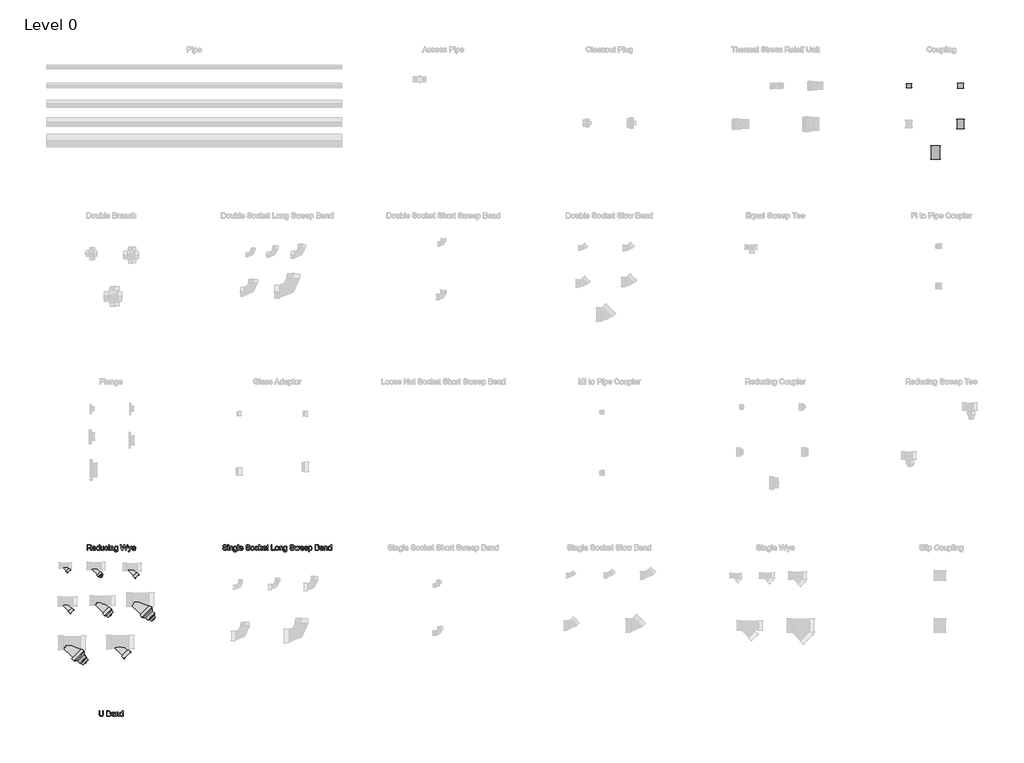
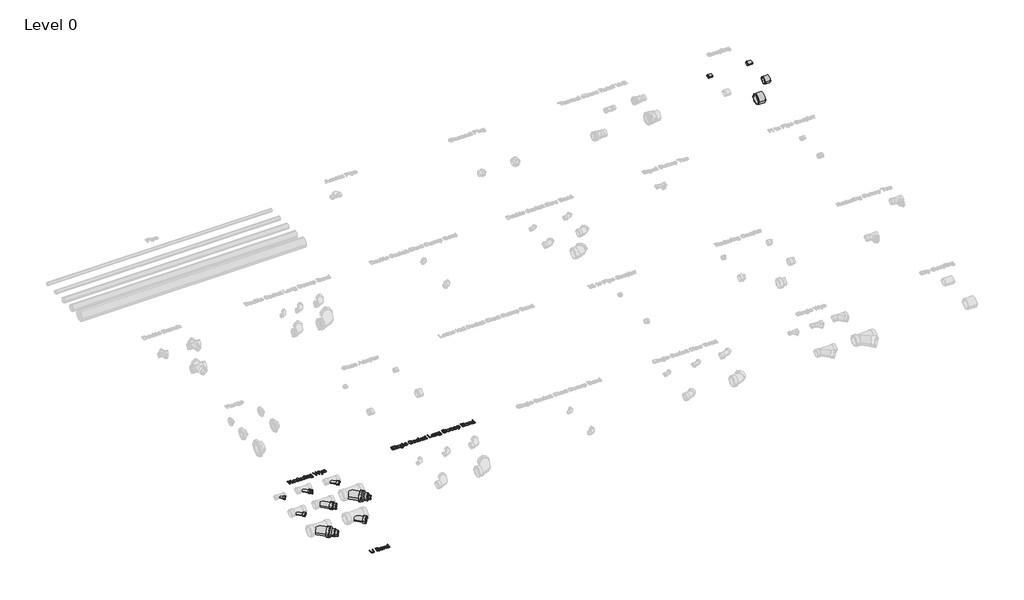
# One storey, part 2 of 10: 11 proxies, 4 pipe fittings.
"""IFC4 building model written with IfcOpenShell, lengths in millimetres."""

from ifc_helpers import new_model, si_unit, origin, origin_with_axes, place, context, project, spatial, polyline, outline, extrude, transform, mapped, element, save
from components import family1_102x51_37351665, family1_102x76_0a6e0844, family1_152x102_186b0d9e, family1_152x51_664cd001, family1_152x76_459f450e, family1_51x38_9dc83d4e, family1_76x38_972b7e1c, family1_76x51_2759c619, l161_38mm_9375cee0, l162_51mm_ee834548, l164_102mm_7c159738, l166_152mm_a0bbb9d2

model = new_model("IFC4")

# Units and contexts
model_context = context("Model", 3, world=origin())
ifc_project = project(units=[si_unit("LENGTHUNIT", "METRE", prefix="MILLI")], contexts=[model_context])

# Site, building, storey
site = spatial("IfcSite", under=ifc_project)
building = spatial("IfcBuilding", under=site)
storey = spatial("IfcBuildingStorey", under=building, Name="Level 0", Elevation=0.0)

# Proxies
placement = place(None, origin())
element("IfcBuildingElementProxy", 1, Name="75mm Arial", ObjectType="75mm Arial", at=placement, inside=storey, context=model_context, shape_type="SweptSolid", body=[
    extrude(outline(polyline([(-5524.5232569, -1117.9910672), (-5515.2924877, -1117.9910672), (-5512.3177281, -1127.2308508), (-5505.0521031, -1133.072197), (-5493.9823916, -1135.2987595), (-5484.3369589, -1133.6130623), (-5478.1079925, -1128.9796489), (-5476.0617185, -1122.7867402), (-5477.5941704, -1117.0265239), (-5483.8682089, -1112.8348172), (-5497.3087137, -1109.3101777), (-5511.7768627, -1104.7578941), (-5519.6284252, -1097.8889037), (-5522.2155646, -1088.712221), (-5519.0154444, -1078.2645047), (-5509.6674877, -1070.8907066), (-5495.9835935, -1068.3756825), (-5481.3802281, -1071.0078941), (-5471.6446512, -1078.7422691), (-5467.9847954, -1090.2987595), (-5477.2155646, -1090.2987595), (-5482.44393, -1080.8155864), (-5495.6230166, -1077.6064518), (-5508.8381608, -1080.7795287), (-5512.9847954, -1088.4417883), (-5510.0460935, -1094.8420287), (-5494.9739781, -1099.9982787), (-5478.6398435, -1104.6316922), (-5469.7065502, -1112.1136633), (-5466.8309492, -1122.5523652), (-5470.1392425, -1133.5950335), (-5479.6584733, -1141.6539277), (-5493.6218146, -1144.5295287), (-5510.1091944, -1141.4285672), (-5520.5388819, -1132.0896248), (-5524.5232569, -1117.9910672)])), origin_with_axes(), (0.0, 0.0, 1.0), 10.0),
    extrude(outline(polyline([(-5454.1386416, -1143.3756825), (-5454.1386416, -1089.1449133), (-5444.9078723, -1089.1449133), (-5444.9078723, -1143.3756825), (-5454.1386416, -1143.3756825)])), origin_with_axes(), (0.0, 0.0, 1.0), 10.0),
    extrude(outline(polyline([(-5454.1386416, -1078.7602979), (-5454.1386416, -1069.5295287), (-5444.9078723, -1069.5295287), (-5444.9078723, -1078.7602979), (-5454.1386416, -1078.7602979)])), origin_with_axes(), (0.0, 0.0, 1.0), 10.0),
    extrude(outline(polyline([(-5431.0617185, -1143.3756825), (-5431.0617185, -1089.1449133), (-5421.8309492, -1089.1449133), (-5421.8309492, -1096.7170287), (-5414.772656, -1090.1725575), (-5405.1362377, -1087.9910672), (-5396.4192906, -1089.7488797), (-5390.4697714, -1094.3642643), (-5387.7023435, -1101.1521248), (-5387.2155646, -1110.0764037), (-5387.2155646, -1143.3756825), (-5396.4463339, -1143.3756825), (-5396.4463339, -1111.3203941), (-5397.5100358, -1103.1533268), (-5401.2690502, -1098.8354181), (-5407.6061896, -1097.2218364), (-5417.6212137, -1100.8456345), (-5421.8309492, -1114.6016441), (-5421.8309492, -1143.3756825), (-5431.0617185, -1143.3756825)])), origin_with_axes(), (0.0, 0.0, 1.0), 10.0),
    extrude(outline(polyline([(-5376.8309492, -1147.9910672), (-5367.60018, -1149.1449133), (-5364.6073916, -1154.0127018), (-5355.647055, -1156.0679902), (-5346.1999396, -1153.7422691), (-5341.6927281, -1147.2158268), (-5341.0617185, -1136.4526056), (-5347.5611175, -1141.6449133), (-5355.4847954, -1143.3756825), (-5365.0017726, -1141.360959), (-5372.0983771, -1135.3167883), (-5376.5131908, -1126.4556104), (-5377.9847954, -1115.9898652), (-5375.3435694, -1101.6839758), (-5367.6993387, -1091.5607787), (-5355.9355166, -1087.9910672), (-5347.7008411, -1090.0102979), (-5341.0617185, -1096.0679902), (-5341.0617185, -1089.1449133), (-5331.8309492, -1089.1449133), (-5331.8309492, -1135.9658268), (-5334.3549877, -1153.8955143), (-5342.350781, -1162.2338556), (-5355.8273435, -1165.2987595), (-5371.178906, -1160.9808508), (-5375.5170971, -1155.5744506), (-5376.8309492, -1147.9910672)]), holes=[polyline([(-5368.7540262, -1115.3588556), (-5364.8147233, -1129.6467162), (-5354.9259012, -1134.1449133), (-5345.0551079, -1129.6737595), (-5341.0617185, -1115.6292883), (-5345.1722954, -1101.8642643), (-5355.0701319, -1097.2218364), (-5364.7606367, -1101.7921489), (-5368.7540262, -1115.3588556)])]), origin_with_axes(), (0.0, 0.0, 1.0), 10.0),
    extrude(outline(polyline([(-5317.9847954, -1143.3756825), (-5317.9847954, -1069.5295287), (-5308.7540262, -1069.5295287), (-5308.7540262, -1143.3756825), (-5317.9847954, -1143.3756825)])), origin_with_axes(), (0.0, 0.0, 1.0), 10.0),
    extrude(outline(polyline([(-5256.9391223, -1127.2218364), (-5247.8886416, -1128.3756825), (-5256.3531848, -1140.2927498), (-5272.1194108, -1144.5295287), (-5282.9502401, -1142.7018544), (-5291.2840742, -1137.2188316), (-5296.5980767, -1128.4365299), (-5298.3694108, -1116.7110191), (-5296.5800478, -1104.5911272), (-5291.2119589, -1095.5271248), (-5282.990805, -1089.8750816), (-5272.6422473, -1087.9910672), (-5262.6159553, -1089.8705744), (-5254.6043867, -1095.509096), (-5249.3512317, -1104.5550696), (-5247.60018, -1116.6569325), (-5247.6542666, -1119.1449133), (-5289.1386416, -1119.1449133), (-5283.8291464, -1131.134096), (-5271.9391223, -1135.2987595), (-5262.8886416, -1133.3696729), (-5256.9391223, -1127.2218364)]), holes=[polyline([(-5289.1386416, -1109.9141441), (-5256.8309492, -1109.9141441), (-5260.5268627, -1101.5487595), (-5272.678305, -1097.2218364), (-5284.0454925, -1100.6743604), (-5289.1386416, -1109.9141441)])]), origin_with_axes(), (0.0, 0.0, 1.0), 10.0),
    extrude(outline(polyline([(-5211.8309492, -1117.9910672), (-5202.60018, -1117.9910672), (-5199.6254204, -1127.2308508), (-5192.3597954, -1133.072197), (-5181.2900839, -1135.2987595), (-5171.6446512, -1133.6130623), (-5165.4156848, -1128.9796489), (-5163.3694108, -1122.7867402), (-5164.9018627, -1117.0265239), (-5171.1759012, -1112.8348172), (-5184.616406, -1109.3101777), (-5199.084555, -1104.7578941), (-5206.9361175, -1097.8889037), (-5209.5232569, -1088.712221), (-5206.3231367, -1078.2645047), (-5196.97518, -1070.8907066), (-5183.2912858, -1068.3756825), (-5168.6879204, -1071.0078941), (-5158.9523435, -1078.7422691), (-5155.2924877, -1090.2987595), (-5164.5232569, -1090.2987595), (-5169.7516223, -1080.8155864), (-5182.9307089, -1077.6064518), (-5196.1458531, -1080.7795287), (-5200.2924877, -1088.4417883), (-5197.3537858, -1094.8420287), (-5182.2816704, -1099.9982787), (-5165.9475358, -1104.6316922), (-5157.0142425, -1112.1136633), (-5154.1386416, -1122.5523652), (-5157.4469348, -1133.5950335), (-5166.9661656, -1141.6539277), (-5180.9295069, -1144.5295287), (-5197.4168867, -1141.4285672), (-5207.8465742, -1132.0896248), (-5211.8309492, -1117.9910672)])), origin_with_axes(), (0.0, 0.0, 1.0), 10.0),
    extrude(outline(polyline([(-5143.7540262, -1116.2602979), (-5141.7573315, -1103.1848772), (-5135.7672473, -1093.9946729), (-5128.366406, -1089.4919686), (-5119.5052281, -1087.9910672), (-5109.8079625, -1089.8187414), (-5102.0623194, -1095.3017643), (-5096.9849456, -1104.0074434), (-5095.2924877, -1115.5030864), (-5098.2852762, -1131.9273652), (-5107.0022233, -1141.2212354), (-5119.5052281, -1144.5295287), (-5129.3196812, -1142.7086152), (-5137.0563098, -1137.2458748), (-5142.0795971, -1128.3576537), (-5143.7540262, -1116.2602979)]), holes=[polyline([(-5134.5232569, -1116.2422691), (-5130.2504204, -1130.5481585), (-5119.5052281, -1135.2987595), (-5108.7960935, -1130.5211152), (-5104.5232569, -1115.9538075), (-5108.8231367, -1101.9724373), (-5119.5052281, -1097.2218364), (-5130.2504204, -1101.9544085), (-5134.5232569, -1116.2422691)])]), origin_with_axes(), (0.0, 0.0, 1.0), 10.0),
    extrude(outline(polyline([(-5050.2924877, -1123.7602979), (-5041.0617185, -1124.9141441), (-5048.4715742, -1139.3282066), (-5063.1109973, -1144.5295287), (-5072.9299577, -1142.715376), (-5080.6079925, -1137.2729181), (-5085.5636716, -1128.4410371), (-5087.2155646, -1116.4586152), (-5084.3940502, -1101.1250816), (-5075.7942906, -1091.2723172), (-5063.2371992, -1087.9910672), (-5049.2017425, -1092.4982787), (-5042.2155646, -1105.2987595), (-5051.4463339, -1106.4526056), (-5055.7281848, -1099.5385431), (-5063.1650839, -1097.2218364), (-5073.8652041, -1101.7831345), (-5077.9847954, -1116.2062114), (-5073.9553483, -1130.7645047), (-5063.4174877, -1135.2987595), (-5054.7185694, -1132.4682306), (-5050.2924877, -1123.7602979)])), origin_with_axes(), (0.0, 0.0, 1.0), 10.0),
    extrude(outline(polyline([(-5032.9847954, -1143.3756825), (-5032.9847954, -1069.5295287), (-5023.7540262, -1069.5295287), (-5023.7540262, -1109.2110191), (-5003.0569108, -1089.1449133), (-4990.2924877, -1089.1449133), (-5011.2420069, -1109.4634229), (-4989.1386416, -1143.3756825), (-4999.9198916, -1143.3756825), (-5017.8585935, -1115.8816922), (-5023.7540262, -1121.5968364), (-5023.7540262, -1143.3756825), (-5032.9847954, -1143.3756825)])), origin_with_axes(), (0.0, 0.0, 1.0), 10.0),
    extrude(outline(polyline([(-4943.0929685, -1127.2218364), (-4934.0424877, -1128.3756825), (-4942.507031, -1140.2927498), (-4958.2732569, -1144.5295287), (-4969.1040863, -1142.7018544), (-4977.4379204, -1137.2188316), (-4982.7519228, -1128.4365299), (-4984.5232569, -1116.7110191), (-4982.733894, -1104.5911272), (-4977.365805, -1095.5271248), (-4969.1446512, -1089.8750816), (-4958.7960935, -1087.9910672), (-4948.7698014, -1089.8705744), (-4940.7582329, -1095.509096), (-4935.5050779, -1104.5550696), (-4933.7540262, -1116.6569325), (-4933.8081127, -1119.1449133), (-4975.2924877, -1119.1449133), (-4969.9829925, -1131.134096), (-4958.0929685, -1135.2987595), (-4949.0424877, -1133.3696729), (-4943.0929685, -1127.2218364)]), holes=[polyline([(-4975.2924877, -1109.9141441), (-4942.9847954, -1109.9141441), (-4946.6807089, -1101.5487595), (-4958.8321512, -1097.2218364), (-4970.1993387, -1100.6743604), (-4975.2924877, -1109.9141441)])]), origin_with_axes(), (0.0, 0.0, 1.0), 10.0),
    extrude(outline(polyline([(-4904.9078723, -1135.6773652), (-4903.7540262, -1143.6461152), (-4910.6590742, -1144.5295287), (-4918.3934492, -1142.9970768), (-4922.2516223, -1138.9766441), (-4923.3694108, -1128.5018845), (-4923.3694108, -1098.3756825), (-4930.2924877, -1098.3756825), (-4930.2924877, -1089.1449133), (-4923.3694108, -1089.1449133), (-4923.3694108, -1075.9658268), (-4914.1386416, -1070.5391441), (-4914.1386416, -1089.1449133), (-4904.9078723, -1089.1449133), (-4904.9078723, -1098.3756825), (-4914.1386416, -1098.3756825), (-4914.1386416, -1128.2314518), (-4913.6518627, -1132.9910672), (-4912.0743387, -1134.6767643), (-4908.928305, -1135.2987595), (-4904.9078723, -1135.6773652)])), origin_with_axes(), (0.0, 0.0, 1.0), 10.0),
    extrude(outline(polyline([(-4865.6771031, -1143.3756825), (-4865.6771031, -1069.5295287), (-4856.4463339, -1069.5295287), (-4856.4463339, -1134.1449133), (-4819.5232569, -1134.1449133), (-4819.5232569, -1143.3756825), (-4865.6771031, -1143.3756825)])), origin_with_axes(), (0.0, 0.0, 1.0), 10.0),
    extrude(outline(polyline([(-4812.60018, -1116.2602979), (-4810.6034853, -1103.1848772), (-4804.6134012, -1093.9946729), (-4797.2125598, -1089.4919686), (-4788.3513819, -1087.9910672), (-4778.6541163, -1089.8187414), (-4770.9084733, -1095.3017643), (-4765.8310995, -1104.0074434), (-4764.1386416, -1115.5030864), (-4767.13143, -1131.9273652), (-4775.8483771, -1141.2212354), (-4788.3513819, -1144.5295287), (-4798.1658351, -1142.7086152), (-4805.9024637, -1137.2458748), (-4810.9257509, -1128.3576537), (-4812.60018, -1116.2602979)]), holes=[polyline([(-4803.3694108, -1116.2422691), (-4799.0965742, -1130.5481585), (-4788.3513819, -1135.2987595), (-4777.6422473, -1130.5211152), (-4773.3694108, -1115.9538075), (-4777.6692906, -1101.9724373), (-4788.3513819, -1097.2218364), (-4799.0965742, -1101.9544085), (-4803.3694108, -1116.2422691)])]), origin_with_axes(), (0.0, 0.0, 1.0), 10.0),
    extrude(outline(polyline([(-4753.7540262, -1143.3756825), (-4753.7540262, -1089.1449133), (-4744.5232569, -1089.1449133), (-4744.5232569, -1096.7170287), (-4737.4649637, -1090.1725575), (-4727.8285454, -1087.9910672), (-4719.1115983, -1089.7488797), (-4713.1620791, -1094.3642643), (-4710.3946512, -1101.1521248), (-4709.9078723, -1110.0764037), (-4709.9078723, -1143.3756825), (-4719.1386416, -1143.3756825), (-4719.1386416, -1111.3203941), (-4720.2023435, -1103.1533268), (-4723.9613579, -1098.8354181), (-4730.2984973, -1097.2218364), (-4740.3135214, -1100.8456345), (-4744.5232569, -1114.6016441), (-4744.5232569, -1143.3756825), (-4753.7540262, -1143.3756825)])), origin_with_axes(), (0.0, 0.0, 1.0), 10.0),
    extrude(outline(polyline([(-4699.5232569, -1147.9910672), (-4690.2924877, -1149.1449133), (-4687.2996992, -1154.0127018), (-4678.3393627, -1156.0679902), (-4668.8922473, -1153.7422691), (-4664.3850358, -1147.2158268), (-4663.7540262, -1136.4526056), (-4670.2534252, -1141.6449133), (-4678.1771031, -1143.3756825), (-4687.6940803, -1141.360959), (-4694.7906848, -1135.3167883), (-4699.2054985, -1126.4556104), (-4700.6771031, -1115.9898652), (-4698.0358771, -1101.6839758), (-4690.3916464, -1091.5607787), (-4678.6278242, -1087.9910672), (-4670.3931488, -1090.0102979), (-4663.7540262, -1096.0679902), (-4663.7540262, -1089.1449133), (-4654.5232569, -1089.1449133), (-4654.5232569, -1135.9658268), (-4657.0472954, -1153.8955143), (-4665.0430887, -1162.2338556), (-4678.5196512, -1165.2987595), (-4693.8712137, -1160.9808508), (-4698.2094048, -1155.5744506), (-4699.5232569, -1147.9910672)]), holes=[polyline([(-4691.4463339, -1115.3588556), (-4687.507031, -1129.6467162), (-4677.6182089, -1134.1449133), (-4667.7474156, -1129.6737595), (-4663.7540262, -1115.6292883), (-4667.8646031, -1101.8642643), (-4677.7624396, -1097.2218364), (-4687.4529444, -1101.7921489), (-4691.4463339, -1115.3588556)])]), origin_with_axes(), (0.0, 0.0, 1.0), 10.0),
    extrude(outline(polyline([(-4614.1386416, -1117.9910672), (-4604.9078723, -1117.9910672), (-4601.9331127, -1127.2308508), (-4594.6674877, -1133.072197), (-4583.5977762, -1135.2987595), (-4573.9523435, -1133.6130623), (-4567.7233771, -1128.9796489), (-4565.6771031, -1122.7867402), (-4567.209555, -1117.0265239), (-4573.4835935, -1112.8348172), (-4586.9240983, -1109.3101777), (-4601.3922473, -1104.7578941), (-4609.2438098, -1097.8889037), (-4611.8309492, -1088.712221), (-4608.6308291, -1078.2645047), (-4599.2828723, -1070.8907066), (-4585.5989781, -1068.3756825), (-4570.9956127, -1071.0078941), (-4561.2600358, -1078.7422691), (-4557.60018, -1090.2987595), (-4566.8309492, -1090.2987595), (-4572.0593146, -1080.8155864), (-4585.2384012, -1077.6064518), (-4598.4535454, -1080.7795287), (-4602.60018, -1088.4417883), (-4599.6614781, -1094.8420287), (-4584.5893627, -1099.9982787), (-4568.2552281, -1104.6316922), (-4559.3219348, -1112.1136633), (-4556.4463339, -1122.5523652), (-4559.7546271, -1133.5950335), (-4569.2738579, -1141.6539277), (-4583.2371992, -1144.5295287), (-4599.7245791, -1141.4285672), (-4610.1542666, -1132.0896248), (-4614.1386416, -1117.9910672)])), origin_with_axes(), (0.0, 0.0, 1.0), 10.0),
    extrude(outline(polyline([(-4534.7576319, -1143.3756825), (-4551.2540262, -1089.1449133), (-4541.66268, -1089.1449133), (-4532.3057089, -1120.7855383), (-4529.5112377, -1132.0896248), (-4527.2215742, -1121.2002018), (-4519.7756608, -1089.1449133), (-4508.7780646, -1089.1449133), (-4501.3682089, -1121.1100575), (-4499.3309492, -1130.9718364), (-4496.4102762, -1120.5691922), (-4487.0352762, -1089.1449133), (-4477.4078723, -1089.1449133), (-4494.0304685, -1143.3756825), (-4505.1903242, -1143.3756825), (-4512.2756608, -1111.5727979), (-4514.3309492, -1101.6569325), (-4523.4715742, -1143.3756825), (-4534.7576319, -1143.3756825)])), origin_with_axes(), (0.0, 0.0, 1.0), 10.0),
    extrude(outline(polyline([(-4433.0929685, -1127.2218364), (-4424.0424877, -1128.3756825), (-4432.507031, -1140.2927498), (-4448.2732569, -1144.5295287), (-4459.1040863, -1142.7018544), (-4467.4379204, -1137.2188316), (-4472.7519228, -1128.4365299), (-4474.5232569, -1116.7110191), (-4472.733894, -1104.5911272), (-4467.365805, -1095.5271248), (-4459.1446512, -1089.8750816), (-4448.7960935, -1087.9910672), (-4438.7698014, -1089.8705744), (-4430.7582329, -1095.509096), (-4425.5050779, -1104.5550696), (-4423.7540262, -1116.6569325), (-4423.8081127, -1119.1449133), (-4465.2924877, -1119.1449133), (-4459.9829925, -1131.134096), (-4448.0929685, -1135.2987595), (-4439.0424877, -1133.3696729), (-4433.0929685, -1127.2218364)]), holes=[polyline([(-4465.2924877, -1109.9141441), (-4432.9847954, -1109.9141441), (-4436.6807089, -1101.5487595), (-4448.8321512, -1097.2218364), (-4460.1993387, -1100.6743604), (-4465.2924877, -1109.9141441)])]), origin_with_axes(), (0.0, 0.0, 1.0), 10.0),
    extrude(outline(polyline([(-4376.5545069, -1127.2218364), (-4367.5040262, -1128.3756825), (-4375.9685694, -1140.2927498), (-4391.7347954, -1144.5295287), (-4402.5656247, -1142.7018544), (-4410.8994589, -1137.2188316), (-4416.2134613, -1128.4365299), (-4417.9847954, -1116.7110191), (-4416.1954324, -1104.5911272), (-4410.8273435, -1095.5271248), (-4402.6061896, -1089.8750816), (-4392.2576319, -1087.9910672), (-4382.2313399, -1089.8705744), (-4374.2197714, -1095.509096), (-4368.9666163, -1104.5550696), (-4367.2155646, -1116.6569325), (-4367.2696512, -1119.1449133), (-4408.7540262, -1119.1449133), (-4403.444531, -1131.134096), (-4391.5545069, -1135.2987595), (-4382.5040262, -1133.3696729), (-4376.5545069, -1127.2218364)]), holes=[polyline([(-4408.7540262, -1109.9141441), (-4376.4463339, -1109.9141441), (-4380.1422473, -1101.5487595), (-4392.2936896, -1097.2218364), (-4403.6608771, -1100.6743604), (-4408.7540262, -1109.9141441)])]), origin_with_axes(), (0.0, 0.0, 1.0), 10.0),
    extrude(outline(polyline([(-4357.9847954, -1164.1449133), (-4357.9847954, -1089.1449133), (-4348.7540262, -1089.1449133), (-4348.7540262, -1098.1953941), (-4342.3718146, -1090.5421489), (-4333.7540262, -1087.9910672), (-4322.053305, -1091.5607787), (-4314.4090742, -1101.6208748), (-4311.8309492, -1115.8456345), (-4314.7426079, -1130.8005623), (-4323.1981367, -1140.9868604), (-4334.8718146, -1144.5295287), (-4342.9036656, -1142.1587354), (-4348.7540262, -1136.1641441), (-4348.7540262, -1164.1449133), (-4357.9847954, -1164.1449133)]), holes=[polyline([(-4348.7540262, -1116.6929902), (-4344.7606367, -1130.7554902), (-4335.0701319, -1135.2987595), (-4325.1813098, -1130.5932306), (-4321.0617185, -1116.0078941), (-4325.0821512, -1101.9093364), (-4334.6915262, -1097.2218364), (-4344.4902041, -1102.2068123), (-4348.7540262, -1116.6929902)])]), origin_with_axes(), (0.0, 0.0, 1.0), 10.0),
    extrude(outline(polyline([(-4271.4463339, -1143.3756825), (-4271.4463339, -1069.5295287), (-4243.2672473, -1069.5295287), (-4229.4661656, -1071.7020047), (-4221.3171271, -1078.3816922), (-4218.3694108, -1087.8288075), (-4220.8483771, -1096.4556104), (-4228.3393627, -1102.9910672), (-4219.2438098, -1109.8780864), (-4216.0617185, -1121.3624614), (-4218.2341944, -1131.2873412), (-4223.615805, -1138.3546489), (-4231.647656, -1142.1046489), (-4243.4835935, -1143.3756825), (-4271.4463339, -1143.3756825)]), holes=[polyline([(-4262.2155646, -1099.5295287), (-4245.3585935, -1099.5295287), (-4235.5148435, -1098.7362595), (-4229.5923675, -1095.3197931), (-4227.60018, -1089.3071729), (-4229.4571512, -1083.2855383), (-4234.7756608, -1079.7248412), (-4246.6386416, -1078.7602979), (-4262.2155646, -1078.7602979), (-4262.2155646, -1099.5295287)]), polyline([(-4262.2155646, -1134.1449133), (-4243.2852762, -1134.1449133), (-4236.4343146, -1133.7843364), (-4230.6380406, -1131.77412), (-4226.7978964, -1127.6725575), (-4225.2924877, -1121.4526056), (-4227.0593146, -1114.2771248), (-4232.7834733, -1109.9952739), (-4244.1867185, -1108.7602979), (-4262.2155646, -1108.7602979), (-4262.2155646, -1134.1449133)])]), origin_with_axes(), (0.0, 0.0, 1.0), 10.0),
    extrude(outline(polyline([(-4166.5545069, -1127.2218364), (-4157.5040262, -1128.3756825), (-4165.9685694, -1140.2927498), (-4181.7347954, -1144.5295287), (-4192.5656247, -1142.7018544), (-4200.8994589, -1137.2188316), (-4206.2134613, -1128.4365299), (-4207.9847954, -1116.7110191), (-4206.1954324, -1104.5911272), (-4200.8273435, -1095.5271248), (-4192.6061896, -1089.8750816), (-4182.2576319, -1087.9910672), (-4172.2313399, -1089.8705744), (-4164.2197714, -1095.509096), (-4158.9666163, -1104.5550696), (-4157.2155646, -1116.6569325), (-4157.2696512, -1119.1449133), (-4198.7540262, -1119.1449133), (-4193.444531, -1131.134096), (-4181.5545069, -1135.2987595), (-4172.5040262, -1133.3696729), (-4166.5545069, -1127.2218364)]), holes=[polyline([(-4198.7540262, -1109.9141441), (-4166.4463339, -1109.9141441), (-4170.1422473, -1101.5487595), (-4182.2936896, -1097.2218364), (-4193.6608771, -1100.6743604), (-4198.7540262, -1109.9141441)])]), origin_with_axes(), (0.0, 0.0, 1.0), 10.0),
    extrude(outline(polyline([(-4147.9847954, -1143.3756825), (-4147.9847954, -1089.1449133), (-4138.7540262, -1089.1449133), (-4138.7540262, -1096.7170287), (-4131.6957329, -1090.1725575), (-4122.0593146, -1087.9910672), (-4113.3423675, -1089.7488797), (-4107.3928483, -1094.3642643), (-4104.6254204, -1101.1521248), (-4104.1386416, -1110.0764037), (-4104.1386416, -1143.3756825), (-4113.3694108, -1143.3756825), (-4113.3694108, -1111.3203941), (-4114.4331127, -1103.1533268), (-4118.1921271, -1098.8354181), (-4124.5292666, -1097.2218364), (-4134.5442906, -1100.8456345), (-4138.7540262, -1114.6016441), (-4138.7540262, -1143.3756825), (-4147.9847954, -1143.3756825)])), origin_with_axes(), (0.0, 0.0, 1.0), 10.0),
    extrude(outline(polyline([(-4057.9847954, -1143.3756825), (-4057.9847954, -1134.6677498), (-4064.092067, -1142.064084), (-4072.5340742, -1144.5295287), (-4083.9643627, -1140.9598172), (-4092.0412858, -1130.9988797), (-4094.9078723, -1116.3143845), (-4092.2666464, -1101.6208748), (-4084.3519829, -1091.5066922), (-4072.5701319, -1087.9910672), (-4064.0605166, -1090.5060912), (-4057.9847954, -1097.0415479), (-4057.9847954, -1069.5295287), (-4048.7540262, -1069.5295287), (-4048.7540262, -1143.3756825), (-4057.9847954, -1143.3756825)]), holes=[polyline([(-4085.6771031, -1116.2783268), (-4081.5124396, -1130.5661873), (-4071.6867185, -1135.2987595), (-4061.9781848, -1130.7825335), (-4057.9847954, -1116.9814518), (-4062.0503002, -1101.9994806), (-4072.0653242, -1097.2218364), (-4081.7828723, -1101.8101777), (-4085.6771031, -1116.2783268)])]), origin_with_axes(), (0.0, 0.0, 1.0), 10.0),
])
element("IfcBuildingElementProxy", 2, Name="75mm Arial", ObjectType="75mm Arial", at=placement, inside=storey, context=model_context, shape_type="SweptSolid", body=[
    extrude(outline(polyline([(-7362.0232569, -1143.3756825), (-7362.0232569, -1069.5295287), (-7330.2023435, -1069.5295287), (-7315.4277041, -1071.5217162), (-7307.350781, -1078.570995), (-7304.3309492, -1089.7398652), (-7309.3339541, -1103.0451537), (-7324.7936896, -1109.9141441), (-7319.5472954, -1113.8624614), (-7312.0653242, -1123.3636633), (-7299.7516223, -1143.3756825), (-7310.4787858, -1143.3756825), (-7320.0881608, -1128.0691922), (-7327.0292666, -1117.9369806), (-7331.9060694, -1113.150322), (-7336.2960935, -1111.3925095), (-7341.6506608, -1111.0679902), (-7352.7924877, -1111.0679902), (-7352.7924877, -1143.3756825), (-7362.0232569, -1143.3756825)]), holes=[polyline([(-7352.7924877, -1101.837221), (-7332.13143, -1101.837221), (-7321.5935694, -1100.5301297), (-7315.6079925, -1096.3474373), (-7313.5617185, -1090.0824133), (-7317.4649637, -1081.9514037), (-7329.8057089, -1078.7602979), (-7352.7924877, -1078.7602979), (-7352.7924877, -1101.837221)])]), origin_with_axes(), (0.0, 0.0, 1.0), 10.0),
    extrude(outline(polyline([(-7251.3621992, -1127.2218364), (-7242.3117185, -1128.3756825), (-7250.7762617, -1140.2927498), (-7266.5424877, -1144.5295287), (-7277.373317, -1142.7018544), (-7285.7071512, -1137.2188316), (-7291.0211536, -1128.4365299), (-7292.7924877, -1116.7110191), (-7291.0031247, -1104.5911272), (-7285.6350358, -1095.5271248), (-7277.4138819, -1089.8750816), (-7267.0653242, -1087.9910672), (-7257.0390322, -1089.8705744), (-7249.0274637, -1095.509096), (-7243.7743086, -1104.5550696), (-7242.0232569, -1116.6569325), (-7242.0773435, -1119.1449133), (-7283.5617185, -1119.1449133), (-7278.2522233, -1131.134096), (-7266.3621992, -1135.2987595), (-7257.3117185, -1133.3696729), (-7251.3621992, -1127.2218364)]), holes=[polyline([(-7283.5617185, -1109.9141441), (-7251.2540262, -1109.9141441), (-7254.9499396, -1101.5487595), (-7267.1013819, -1097.2218364), (-7278.4685694, -1100.6743604), (-7283.5617185, -1109.9141441)])]), origin_with_axes(), (0.0, 0.0, 1.0), 10.0),
    extrude(outline(polyline([(-7199.3309492, -1143.3756825), (-7199.3309492, -1134.6677498), (-7205.4382209, -1142.064084), (-7213.8802281, -1144.5295287), (-7225.3105166, -1140.9598172), (-7233.3874396, -1130.9988797), (-7236.2540262, -1116.3143845), (-7233.6128002, -1101.6208748), (-7225.6981367, -1091.5066922), (-7213.9162858, -1087.9910672), (-7205.4066704, -1090.5060912), (-7199.3309492, -1097.0415479), (-7199.3309492, -1069.5295287), (-7190.10018, -1069.5295287), (-7190.10018, -1143.3756825), (-7199.3309492, -1143.3756825)]), holes=[polyline([(-7227.0232569, -1116.2783268), (-7222.8585935, -1130.5661873), (-7213.0328723, -1135.2987595), (-7203.3243387, -1130.7825335), (-7199.3309492, -1116.9814518), (-7203.3964541, -1101.9994806), (-7213.4114781, -1097.2218364), (-7223.1290262, -1101.8101777), (-7227.0232569, -1116.2783268)])]), origin_with_axes(), (0.0, 0.0, 1.0), 10.0),
    extrude(outline(polyline([(-7141.6386416, -1143.3756825), (-7141.6386416, -1134.0547691), (-7148.8682089, -1141.9108388), (-7158.2972954, -1144.5295287), (-7166.9781848, -1142.6905864), (-7172.9637617, -1138.0752018), (-7175.7131608, -1131.2783268), (-7176.2540262, -1122.696596), (-7176.2540262, -1089.1449133), (-7167.0232569, -1089.1449133), (-7167.0232569, -1118.3516441), (-7166.4643627, -1127.7627018), (-7162.8135214, -1133.2885431), (-7155.9355166, -1135.2987595), (-7148.2281848, -1133.243471), (-7143.1350358, -1127.6455143), (-7141.6386416, -1117.3600575), (-7141.6386416, -1089.1449133), (-7132.4078723, -1089.1449133), (-7132.4078723, -1143.3756825), (-7141.6386416, -1143.3756825)])), origin_with_axes(), (0.0, 0.0, 1.0), 10.0),
    extrude(outline(polyline([(-7085.10018, -1123.7602979), (-7075.8694108, -1124.9141441), (-7083.2792666, -1139.3282066), (-7097.9186896, -1144.5295287), (-7107.73765, -1142.715376), (-7115.4156848, -1137.2729181), (-7120.3713639, -1128.4410371), (-7122.0232569, -1116.4586152), (-7119.2017425, -1101.1250816), (-7110.6019829, -1091.2723172), (-7098.0448916, -1087.9910672), (-7084.0094348, -1092.4982787), (-7077.0232569, -1105.2987595), (-7086.2540262, -1106.4526056), (-7090.5358771, -1099.5385431), (-7097.9727762, -1097.2218364), (-7108.6728964, -1101.7831345), (-7112.7924877, -1116.2062114), (-7108.7630406, -1130.7645047), (-7098.22518, -1135.2987595), (-7089.5262617, -1132.4682306), (-7085.10018, -1123.7602979)])), origin_with_axes(), (0.0, 0.0, 1.0), 10.0),
    extrude(outline(polyline([(-7067.7924877, -1143.3756825), (-7067.7924877, -1089.1449133), (-7058.5617185, -1089.1449133), (-7058.5617185, -1143.3756825), (-7067.7924877, -1143.3756825)])), origin_with_axes(), (0.0, 0.0, 1.0), 10.0),
    extrude(outline(polyline([(-7067.7924877, -1078.7602979), (-7067.7924877, -1069.5295287), (-7058.5617185, -1069.5295287), (-7058.5617185, -1078.7602979), (-7067.7924877, -1078.7602979)])), origin_with_axes(), (0.0, 0.0, 1.0), 10.0),
    extrude(outline(polyline([(-7044.7155646, -1143.3756825), (-7044.7155646, -1089.1449133), (-7035.4847954, -1089.1449133), (-7035.4847954, -1096.7170287), (-7028.4265021, -1090.1725575), (-7018.7900839, -1087.9910672), (-7010.0731367, -1089.7488797), (-7004.1236175, -1094.3642643), (-7001.3561896, -1101.1521248), (-7000.8694108, -1110.0764037), (-7000.8694108, -1143.3756825), (-7010.10018, -1143.3756825), (-7010.10018, -1111.3203941), (-7011.1638819, -1103.1533268), (-7014.9228964, -1098.8354181), (-7021.2600358, -1097.2218364), (-7031.2750598, -1100.8456345), (-7035.4847954, -1114.6016441), (-7035.4847954, -1143.3756825), (-7044.7155646, -1143.3756825)])), origin_with_axes(), (0.0, 0.0, 1.0), 10.0),
    extrude(outline(polyline([(-6990.4847954, -1147.9910672), (-6981.2540262, -1149.1449133), (-6978.2612377, -1154.0127018), (-6969.3009012, -1156.0679902), (-6959.8537858, -1153.7422691), (-6955.3465742, -1147.2158268), (-6954.7155646, -1136.4526056), (-6961.2149637, -1141.6449133), (-6969.1386416, -1143.3756825), (-6978.6556187, -1141.360959), (-6985.7522233, -1135.3167883), (-6990.167037, -1126.4556104), (-6991.6386416, -1115.9898652), (-6988.9974156, -1101.6839758), (-6981.3531848, -1091.5607787), (-6969.5893627, -1087.9910672), (-6961.3546872, -1090.0102979), (-6954.7155646, -1096.0679902), (-6954.7155646, -1089.1449133), (-6945.4847954, -1089.1449133), (-6945.4847954, -1135.9658268), (-6948.0088339, -1153.8955143), (-6956.0046271, -1162.2338556), (-6969.4811896, -1165.2987595), (-6984.8327521, -1160.9808508), (-6989.1709432, -1155.5744506), (-6990.4847954, -1147.9910672)]), holes=[polyline([(-6982.4078723, -1115.3588556), (-6978.4685694, -1129.6467162), (-6968.5797473, -1134.1449133), (-6958.7089541, -1129.6737595), (-6954.7155646, -1115.6292883), (-6958.8261416, -1101.8642643), (-6968.7239781, -1097.2218364), (-6978.4144829, -1101.7921489), (-6982.4078723, -1115.3588556)])]), origin_with_axes(), (0.0, 0.0, 1.0), 10.0),
    extrude(outline(polyline([(-6888.4234973, -1143.3756825), (-6908.5617185, -1069.5295287), (-6899.0424877, -1069.5295287), (-6887.3597954, -1118.0631825), (-6883.7540262, -1133.0451537), (-6879.8958531, -1119.7939518), (-6865.25643, -1069.5295287), (-6851.5364781, -1069.5295287), (-6840.8994589, -1105.9658268), (-6832.9847954, -1133.0451537), (-6829.4871992, -1118.4958748), (-6817.6963339, -1069.5295287), (-6808.1771031, -1069.5295287), (-6828.3333531, -1143.3756825), (-6838.1951319, -1143.3756825), (-6855.8994589, -1086.4045287), (-6858.3694108, -1078.4538075), (-6861.1458531, -1088.0271248), (-6877.2816704, -1143.3756825), (-6888.4234973, -1143.3756825)])), origin_with_axes(), (0.0, 0.0, 1.0), 10.0),
    extrude(outline(polyline([(-6800.10018, -1164.1449133), (-6801.2540262, -1155.2566922), (-6796.5665262, -1156.0679902), (-6792.1855166, -1155.0493604), (-6789.4992185, -1152.2098172), (-6786.97518, -1145.4129422), (-6786.2540262, -1143.1773652), (-6805.8694108, -1089.1449133), (-6796.1338339, -1089.1449133), (-6785.7311896, -1119.2530864), (-6782.1073916, -1131.2963556), (-6778.4835935, -1120.6593364), (-6767.7924877, -1089.1449133), (-6758.1290262, -1089.1449133), (-6777.0052281, -1144.6737595), (-6781.9090742, -1156.7170287), (-6787.2636416, -1163.2254422), (-6794.4571512, -1165.2987595), (-6800.10018, -1164.1449133)])), origin_with_axes(), (0.0, 0.0, 1.0), 10.0),
    extrude(outline(polyline([(-6712.5160454, -1127.2218364), (-6703.4655646, -1128.3756825), (-6711.9301079, -1140.2927498), (-6727.6963339, -1144.5295287), (-6738.5271632, -1142.7018544), (-6746.8609973, -1137.2188316), (-6752.1749997, -1128.4365299), (-6753.9463339, -1116.7110191), (-6752.1569709, -1104.5911272), (-6746.7888819, -1095.5271248), (-6738.5677281, -1089.8750816), (-6728.2191704, -1087.9910672), (-6718.1928783, -1089.8705744), (-6710.1813098, -1095.509096), (-6704.9281548, -1104.5550696), (-6703.1771031, -1116.6569325), (-6703.2311896, -1119.1449133), (-6744.7155646, -1119.1449133), (-6739.4060694, -1131.134096), (-6727.5160454, -1135.2987595), (-6718.4655646, -1133.3696729), (-6712.5160454, -1127.2218364)]), holes=[polyline([(-6744.7155646, -1109.9141441), (-6712.4078723, -1109.9141441), (-6716.1037858, -1101.5487595), (-6728.2552281, -1097.2218364), (-6739.6224156, -1100.6743604), (-6744.7155646, -1109.9141441)])]), origin_with_axes(), (0.0, 0.0, 1.0), 10.0),
])
element("IfcBuildingElementProxy", 3, Name="75mm Arial", ObjectType="75mm Arial", at=placement, inside=storey, context=model_context, shape_type="SweptSolid", body=[
    extrude(outline(polyline([(-7149.1386416, -3319.5295287), (-7139.9078723, -3319.5295287), (-7139.9078723, -3362.1316922), (-7142.4138819, -3379.790947), (-7151.4463339, -3390.4279662), (-7168.5737377, -3394.5295287), (-7185.4397233, -3390.9598172), (-7194.7966944, -3380.6202739), (-7197.60018, -3362.1316922), (-7197.60018, -3319.5295287), (-7188.3694108, -3319.5295287), (-7188.3694108, -3361.8071729), (-7186.5484973, -3375.8786873), (-7180.2924877, -3382.8468364), (-7169.4391223, -3385.2987595), (-7160.0506007, -3384.0863196), (-7153.8081127, -3380.4489998), (-7150.3060093, -3373.3636633), (-7149.1386416, -3361.8071729), (-7149.1386416, -3319.5295287)])), origin_with_axes(), (0.0, 0.0, 1.0), 10.0),
    extrude(outline(polyline([(-7094.9078723, -3393.3756825), (-7094.9078723, -3319.5295287), (-7066.7287858, -3319.5295287), (-7052.9277041, -3321.7020047), (-7044.7786656, -3328.3816922), (-7041.8309492, -3337.8288075), (-7044.3099156, -3346.4556104), (-7051.8009012, -3352.9910672), (-7042.7053483, -3359.8780864), (-7039.5232569, -3371.3624614), (-7041.6957329, -3381.2873412), (-7047.0773435, -3388.3546489), (-7055.1091944, -3392.1046489), (-7066.9451319, -3393.3756825), (-7094.9078723, -3393.3756825)]), holes=[polyline([(-7085.6771031, -3349.5295287), (-7068.8201319, -3349.5295287), (-7058.9763819, -3348.7362595), (-7053.053906, -3345.3197931), (-7051.0617185, -3339.3071729), (-7052.9186896, -3333.2855383), (-7058.2371992, -3329.7248412), (-7070.10018, -3328.7602979), (-7085.6771031, -3328.7602979), (-7085.6771031, -3349.5295287)]), polyline([(-7085.6771031, -3384.1449133), (-7066.7468146, -3384.1449133), (-7059.8958531, -3383.7843364), (-7054.0995791, -3381.77412), (-7050.2594348, -3377.6725575), (-7048.7540262, -3371.4526056), (-7050.5208531, -3364.2771248), (-7056.2450117, -3359.9952739), (-7067.6482569, -3358.7602979), (-7085.6771031, -3358.7602979), (-7085.6771031, -3384.1449133)])]), origin_with_axes(), (0.0, 0.0, 1.0), 10.0),
    extrude(outline(polyline([(-6990.0160454, -3377.2218364), (-6980.9655646, -3378.3756825), (-6989.4301079, -3390.2927498), (-7005.1963339, -3394.5295287), (-7016.0271632, -3392.7018544), (-7024.3609973, -3387.2188316), (-7029.6749997, -3378.4365299), (-7031.4463339, -3366.7110191), (-7029.6569709, -3354.5911272), (-7024.2888819, -3345.5271248), (-7016.0677281, -3339.8750816), (-7005.7191704, -3337.9910672), (-6995.6928783, -3339.8705744), (-6987.6813098, -3345.509096), (-6982.4281548, -3354.5550696), (-6980.6771031, -3366.6569325), (-6980.7311896, -3369.1449133), (-7022.2155646, -3369.1449133), (-7016.9060694, -3381.134096), (-7005.0160454, -3385.2987595), (-6995.9655646, -3383.3696729), (-6990.0160454, -3377.2218364)]), holes=[polyline([(-7022.2155646, -3359.9141441), (-6989.9078723, -3359.9141441), (-6993.6037858, -3351.5487595), (-7005.7552281, -3347.2218364), (-7017.1224156, -3350.6743604), (-7022.2155646, -3359.9141441)])]), origin_with_axes(), (0.0, 0.0, 1.0), 10.0),
    extrude(outline(polyline([(-6971.4463339, -3393.3756825), (-6971.4463339, -3339.1449133), (-6962.2155646, -3339.1449133), (-6962.2155646, -3346.7170287), (-6955.1572714, -3340.1725575), (-6945.5208531, -3337.9910672), (-6936.803906, -3339.7488797), (-6930.8543867, -3344.3642643), (-6928.0869589, -3351.1521248), (-6927.60018, -3360.0764037), (-6927.60018, -3393.3756825), (-6936.8309492, -3393.3756825), (-6936.8309492, -3361.3203941), (-6937.8946512, -3353.1533268), (-6941.6536656, -3348.8354181), (-6947.990805, -3347.2218364), (-6958.0058291, -3350.8456345), (-6962.2155646, -3364.6016441), (-6962.2155646, -3393.3756825), (-6971.4463339, -3393.3756825)])), origin_with_axes(), (0.0, 0.0, 1.0), 10.0),
    extrude(outline(polyline([(-6881.4463339, -3393.3756825), (-6881.4463339, -3384.6677498), (-6887.5536055, -3392.064084), (-6895.9956127, -3394.5295287), (-6907.4259012, -3390.9598172), (-6915.5028242, -3380.9988797), (-6918.3694108, -3366.3143845), (-6915.7281848, -3351.6208748), (-6907.8135214, -3341.5066922), (-6896.0316704, -3337.9910672), (-6887.522055, -3340.5060912), (-6881.4463339, -3347.0415479), (-6881.4463339, -3319.5295287), (-6872.2155646, -3319.5295287), (-6872.2155646, -3393.3756825), (-6881.4463339, -3393.3756825)]), holes=[polyline([(-6909.1386416, -3366.2783268), (-6904.9739781, -3380.5661873), (-6895.1482569, -3385.2987595), (-6885.4397233, -3380.7825335), (-6881.4463339, -3366.9814518), (-6885.5118387, -3351.9994806), (-6895.5268627, -3347.2218364), (-6905.2444108, -3351.8101777), (-6909.1386416, -3366.2783268)])]), origin_with_axes(), (0.0, 0.0, 1.0), 10.0),
])
family1_102x51_shape = family1_102x51_37351665(model_context)
element("IfcBuildingElementProxy", 4, Name="Family1 : 102x51", ObjectType="Family1 : 102x51", at=placement, inside=storey, context=model_context, shape_type="MappedRepresentation", body=[
    mapped(family1_102x51_shape, transform((-7704.9916151, -1834.9351729, 0.0), x_axis=(-0.7071067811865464, 0.7071067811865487, 0.0), y_axis=(-0.7071067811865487, -0.7071067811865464, 0.0), z_axis=(0.0, 0.0, 1.0))),
])
family1_102x76_shape = family1_102x76_0a6e0844(model_context)
element("IfcBuildingElementProxy", 5, Name="Family1 : 102x76", ObjectType="Family1 : 102x76", at=placement, inside=storey, context=model_context, shape_type="MappedRepresentation", body=[
    mapped(family1_102x76_shape, transform((-7236.6177802, -1824.8985908, 0.0), x_axis=(-0.7071067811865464, 0.7071067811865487, 0.0), y_axis=(-0.7071067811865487, -0.7071067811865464, 0.0), z_axis=(0.0, 0.0, 1.0))),
])
family1_152x102_shape = family1_152x102_186b0d9e(model_context)
element("IfcBuildingElementProxy", 6, Name="Family1 : 152x102", ObjectType="Family1 : 152x102", at=placement, inside=storey, context=model_context, shape_type="MappedRepresentation", body=[
    mapped(family1_152x102_shape, transform((-6996.3850168, -2387.1280443, 0.0), x_axis=(-0.7071067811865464, 0.7071067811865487, 0.0), y_axis=(-0.7071067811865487, -0.7071067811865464, 0.0), z_axis=(0.0, 0.0, 1.0))),
])
family1_152x51_shape = family1_152x51_664cd001(model_context)
element("IfcBuildingElementProxy", 7, Name="Family1 : 152x51", ObjectType="Family1 : 152x51", at=placement, inside=storey, context=model_context, shape_type="MappedRepresentation", body=[
    mapped(family1_152x51_shape, transform((-6725.3922315, -1810.8490151, 0.0), x_axis=(-0.7071067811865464, 0.7071067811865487, 0.0), y_axis=(-0.7071067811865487, -0.7071067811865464, 0.0), z_axis=(0.0, 0.0, 1.0))),
])
family1_152x76_shape = family1_152x76_459f450e(model_context)
element("IfcBuildingElementProxy", 8, Name="Family1 : 152x76", ObjectType="Family1 : 152x76", at=placement, inside=storey, context=model_context, shape_type="MappedRepresentation", body=[
    mapped(family1_152x76_shape, transform((-7648.1176495, -2396.4716244, 0.0), x_axis=(-0.7071067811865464, 0.7071067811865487, 0.0), y_axis=(-0.7071067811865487, -0.7071067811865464, 0.0), z_axis=(0.0, 0.0, 1.0))),
])
family1_51x38_shape = family1_51x38_9dc83d4e(model_context)
element("IfcBuildingElementProxy", 9, Name="Family1 : 51x38", ObjectType="Family1 : 51x38", at=placement, inside=storey, context=model_context, shape_type="MappedRepresentation", body=[
    mapped(family1_51x38_shape, transform((-7684.9184508, -1349.833701, 0.0), x_axis=(-0.7071067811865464, 0.7071067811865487, 0.0), y_axis=(-0.7071067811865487, -0.7071067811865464, 0.0), z_axis=(0.0, 0.0, 1.0))),
])
family1_76x38_shape = family1_76x38_972b7e1c(model_context)
element("IfcBuildingElementProxy", 10, Name="Family1 : 76x38", ObjectType="Family1 : 76x38", at=placement, inside=storey, context=model_context, shape_type="MappedRepresentation", body=[
    mapped(family1_76x38_shape, transform((-7303.528328, -1356.5247558, 0.0), x_axis=(-0.7071067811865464, 0.7071067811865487, 0.0), y_axis=(-0.7071067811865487, -0.7071067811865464, 0.0), z_axis=(0.0, 0.0, 1.0))),
])
family1_76x51_shape = family1_76x51_2759c619(model_context)
element("IfcBuildingElementProxy", 11, Name="Family1 : 76x51", ObjectType="Family1 : 76x51", at=placement, inside=storey, context=model_context, shape_type="MappedRepresentation", body=[
    mapped(family1_76x51_shape, transform((-6811.7358014, -1369.9068654, 0.0), x_axis=(-0.7071067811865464, 0.7071067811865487, 0.0), y_axis=(-0.7071067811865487, -0.7071067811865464, 0.0), z_axis=(0.0, 0.0, 1.0))),
])

# Pipe fittings
l161_38mm_shape = l161_38mm_9375cee0(model_context)
element("IfcPipeFitting", 12, ObjectType="Durapipe_PipeFitting_VulcatheneEnfusion_Coupling_L16 : L161_38mm", at=placement, inside=storey, context=model_context, shape_type="MappedRepresentation", body=[
    mapped(l161_38mm_shape, transform((3774.5152046, 5150.3388732, 0.0), x_axis=(1.0, 0.0, 0.0), y_axis=(0.0, 1.0, 0.0), z_axis=(0.0, 0.0, 1.0))),
])
l162_51mm_shape = l162_51mm_ee834548(model_context)
element("IfcPipeFitting", 13, ObjectType="Durapipe_PipeFitting_VulcatheneEnfusion_Coupling_L16 : L162_51mm", at=placement, inside=storey, context=model_context, shape_type="MappedRepresentation", body=[
    mapped(l162_51mm_shape, transform((4474.5152046, 5150.3388732, 0.0), x_axis=(1.0, 0.0, 0.0), y_axis=(0.0, 1.0, 0.0), z_axis=(0.0, 0.0, 1.0))),
])
l164_102mm_shape = l164_102mm_7c159738(model_context)
element("IfcPipeFitting", 14, ObjectType="Durapipe_PipeFitting_VulcatheneEnfusion_Coupling_L16 : L164_102mm", at=placement, inside=storey, context=model_context, shape_type="MappedRepresentation", body=[
    mapped(l164_102mm_shape, transform((4474.5152046, 4630.3388732, 0.0), x_axis=(1.0, 0.0, 0.0), y_axis=(0.0, 1.0, 0.0), z_axis=(0.0, 0.0, 1.0))),
])
l166_152mm_shape = l166_152mm_a0bbb9d2(model_context)
element("IfcPipeFitting", 15, ObjectType="Durapipe_PipeFitting_VulcatheneEnfusion_Coupling_L16 : L166_152mm", at=placement, inside=storey, context=model_context, shape_type="MappedRepresentation", body=[
    mapped(l166_152mm_shape, transform((4134.5152046, 4246.6243175, 0.0), x_axis=(1.0, 0.0, 0.0), y_axis=(0.0, 1.0, 0.0), z_axis=(0.0, 0.0, 1.0))),
])

save(model, "model.ifc")
